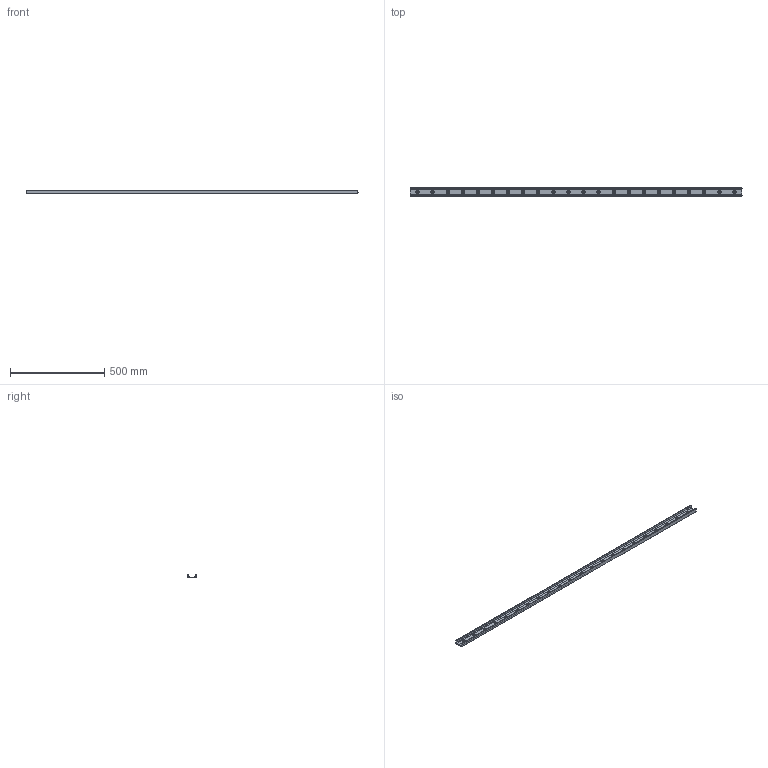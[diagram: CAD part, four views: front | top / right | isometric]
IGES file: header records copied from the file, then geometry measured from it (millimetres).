
Start section: SolidWorks IGES file using analytic representation for surfaces
Global section: file name: C:\Users\IanO\Desktop\43\L1943.ULC43_v2_20180121_IGES\L1943.ULC43-1760.igs; native system: SolidWorks 2017; preprocessor: SolidWorks 2017; author: IanO; date: 190121.084823; units: millimetre
Bounding box: 1760 x 43 x 21 mm (x, y, z)
Surface area: 276269.4 mm2 (no closed solid volume)
Topology: 0 solids, 0 shells, 136 faces, 3462 edges, 3462 vertices
Faces by surface type: revolution 101, bspline 35
